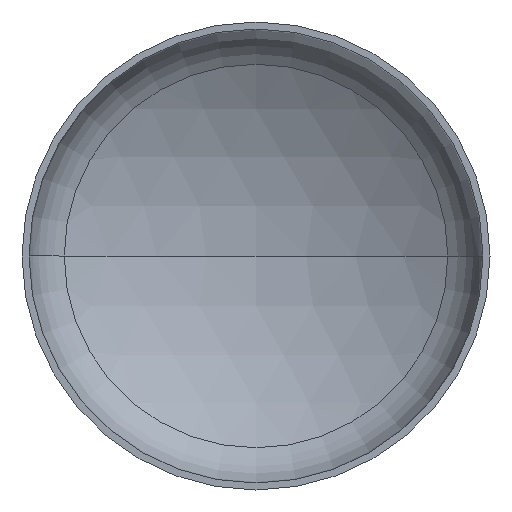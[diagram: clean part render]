
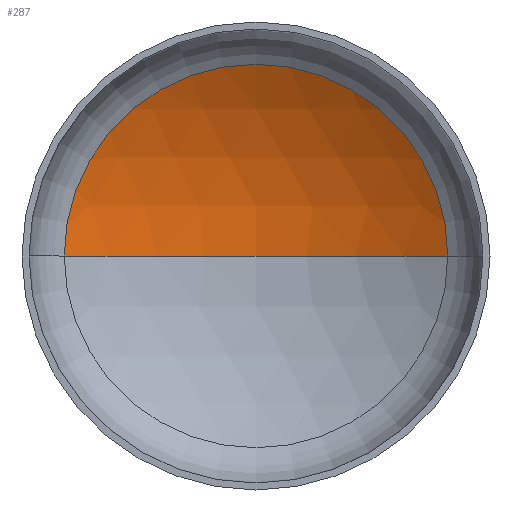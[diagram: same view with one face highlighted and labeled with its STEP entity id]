
A CAD part, front view. The second image highlights one B-rep face of the part: STEP entity #287.
In plain terms, the highlighted spherical face has radius 2880 mm.
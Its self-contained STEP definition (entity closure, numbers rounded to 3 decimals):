
#3 = DIRECTION ( 'NONE',  ( 1., 0., 0. ) ) ;
#4 = AXIS2_PLACEMENT_3D ( 'NONE', #254, #60, #276 ) ;
#11 = AXIS2_PLACEMENT_3D ( 'NONE', #159, #372, #3 ) ;
#20 = EDGE_LOOP ( 'NONE', ( #102, #25, #95 ) ) ;
#25 = ORIENTED_EDGE ( 'NONE', *, *, #380, .T. ) ;
#30 = AXIS2_PLACEMENT_3D ( 'NONE', #205, #226, #207 ) ;
#53 = VERTEX_POINT ( 'NONE', #277 ) ;
#60 = DIRECTION ( 'NONE',  ( 0., 0., -1. ) ) ;
#95 = ORIENTED_EDGE ( 'NONE', *, *, #385, .T. ) ;
#102 = ORIENTED_EDGE ( 'NONE', *, *, #357, .F. ) ;
#119 = VERTEX_POINT ( 'NONE', #285 ) ;
#126 = VERTEX_POINT ( 'NONE', #286 ) ;
#158 = AXIS2_PLACEMENT_3D ( 'NONE', #210, #212, #381 ) ;
#159 = CARTESIAN_POINT ( 'NONE',  ( 0., -1876.783, 0. ) ) ;
#205 = CARTESIAN_POINT ( 'NONE',  ( 0., -1876.783, 0. ) ) ;
#207 = DIRECTION ( 'NONE',  ( -1., 0., 0. ) ) ;
#210 = CARTESIAN_POINT ( 'NONE',  ( 0., 596.652, 0. ) ) ;
#212 = DIRECTION ( 'NONE',  ( 0., -1., 0. ) ) ;
#226 = DIRECTION ( 'NONE',  ( 0., 0., -1. ) ) ;
#252 = CIRCLE ( 'NONE', #11, 2880. ) ;
#254 = CARTESIAN_POINT ( 'NONE',  ( 0., -1876.783, 0. ) ) ;
#276 = DIRECTION ( 'NONE',  ( -1., 0., 0. ) ) ;
#277 = CARTESIAN_POINT ( 'NONE',  ( 0., 1003.217, 0. ) ) ;
#279 = SPHERICAL_SURFACE ( 'NONE', #30, 2880. ) ;
#285 = CARTESIAN_POINT ( 'NONE',  ( -1475.303, 596.652, 0. ) ) ;
#286 = CARTESIAN_POINT ( 'NONE',  ( 1475.303, 596.652, 0. ) ) ;
#287 = ADVANCED_FACE ( 'NONE', ( #408 ), #279, .F. ) ;
#315 = CIRCLE ( 'NONE', #4, 2880. ) ;
#357 = EDGE_CURVE ( 'NONE', #53, #119, #252, .T. ) ;
#372 = DIRECTION ( 'NONE',  ( 0., 0., 1. ) ) ;
#380 = EDGE_CURVE ( 'NONE', #53, #126, #315, .T. ) ;
#381 = DIRECTION ( 'NONE',  ( 1., 0., 0. ) ) ;
#384 = CIRCLE ( 'NONE', #158, 1475.303 ) ;
#385 = EDGE_CURVE ( 'NONE', #126, #119, #384, .T. ) ;
#408 = FACE_OUTER_BOUND ( 'NONE', #20, .T. ) ;
